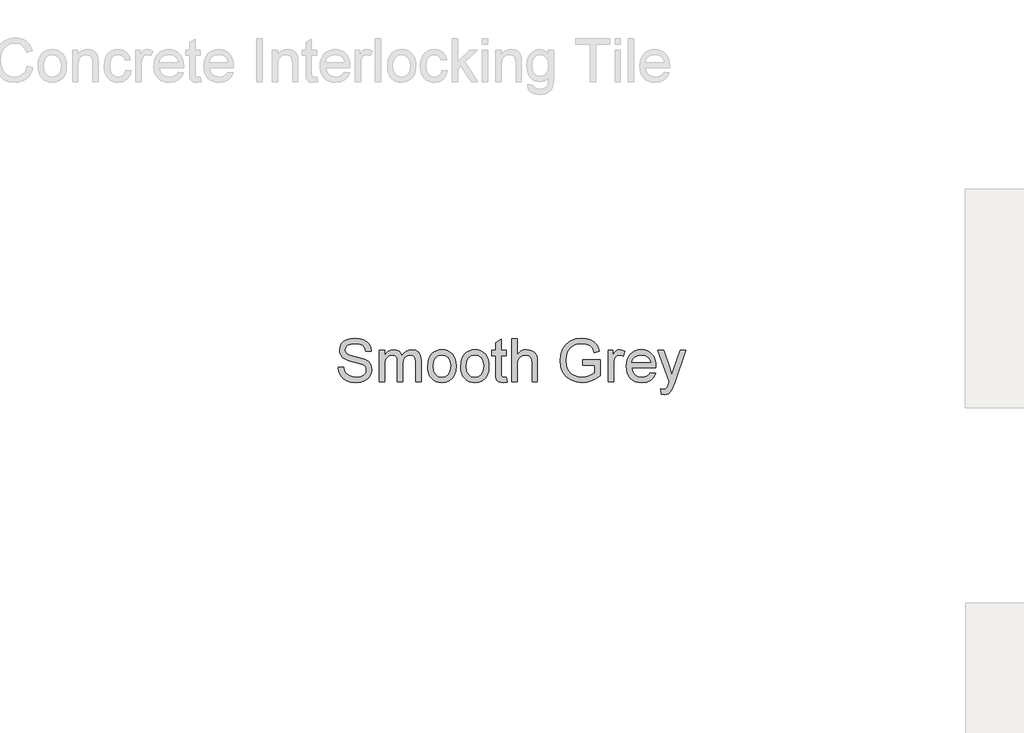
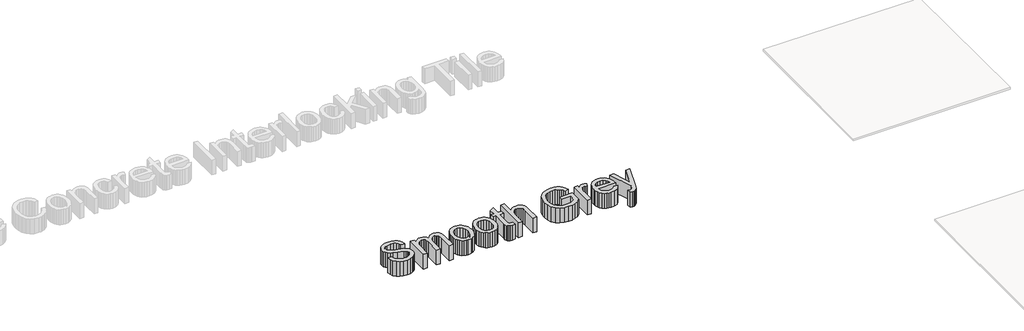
# One storey, part 3 of 4: 1 proxy.
"""IFC4 building model written with IfcOpenShell, lengths in millimetres."""

from ifc_helpers import new_model, si_unit, frame, origin, place, context, project, spatial, polyline, outline, extrude, element, save

model = new_model("IFC4")

# Units and contexts
model_context = context("Model", 3, world=origin())
ifc_project = project(units=[si_unit("LENGTHUNIT", "METRE", prefix="MILLI")], contexts=[model_context])

# Site, building, storey
site = spatial("IfcSite", under=ifc_project)
building = spatial("IfcBuilding", under=site)
storey = spatial("IfcBuildingStorey", under=building, Name="Marley Concrete Interlocking Tiles", Elevation=3000.0)

# Proxy
placement = place(None, origin())
element("IfcBuildingElementProxy", 1, Name="600mm Arial", ObjectType="600mm Arial", at=placement, inside=storey, context=model_context, shape_type="SweptSolid", body=[
    extrude(outline(polyline([(-12933.835925, 1038.4680417), (-12896.9128481, 1038.4680417), (-12892.6760692, 1017.978258), (-12885.0138096, 1001.5089071), (-12873.0606846, 988.4379936), (-12855.9513096, 978.1435224), (-12835.0378481, 971.4638349), (-12811.6724635, 969.2372724), (-12791.10155, 970.9229696), (-12773.0907327, 975.9800609), (-12758.4963817, 983.9848686), (-12748.1748673, 994.5137147), (-12742.0360452, 1006.6020561), (-12739.9897712, 1019.2853494), (-12741.5222231, 1031.6441234), (-12746.1195788, 1042.3262147), (-12755.4585212, 1051.4397965), (-12771.2157327, 1059.0930417), (-12824.9777519, 1073.1915994), (-12860.2692183, 1082.5215272), (-12882.8503481, 1091.400734), (-12901.2307567, 1103.822609), (-12914.2565981, 1118.8766955), (-12922.0180163, 1136.2384744), (-12924.6051558, 1155.5834263), (-12921.4050356, 1177.2090272), (-12911.804675, 1197.3742917), (-12896.0564779, 1214.4656378), (-12874.4128481, 1226.869484), (-12848.4332808, 1234.4145561), (-12819.6772712, 1236.9295801), (-12788.523425, 1234.2973686), (-12761.2638096, 1226.400734), (-12738.8719827, 1213.4019359), (-12722.3215019, 1195.463234), (-12711.8467423, 1173.7024167), (-12707.6820788, 1149.2372724), (-12744.6051558, 1149.2372724), (-12751.3840019, 1171.2685224), (-12765.5186173, 1187.1699647), (-12787.6039538, 1196.7973686), (-12818.2349635, 1200.0065032), (-12849.5871269, 1196.8334263), (-12871.0955404, 1187.3141955), (-12883.5354442, 1173.3057821), (-12887.6820788, 1156.6651571), (-12884.7433769, 1142.4764551), (-12875.9272712, 1131.0641955), (-12855.085925, 1120.8598686), (-12815.6388096, 1110.4391955), (-12750.3022712, 1091.9055417), (-12729.2535933, 1078.510109), (-12714.5690981, 1061.9776571), (-12705.9422952, 1042.4884744), (-12703.0666942, 1020.2228494), (-12706.3749875, 997.4614311), (-12716.2998673, 976.0521763), (-12732.4356846, 957.6266955), (-12754.3767904, 943.8165994), (-12780.7620067, 935.1897965), (-12810.2301558, 932.3141955), (-12846.4050356, 935.4151571), (-12876.179675, 944.7180417), (-12899.8966221, 960.2589071), (-12917.898425, 982.0738109), (-12929.4549154, 1008.6483301), (-12933.835925, 1038.4680417)])), frame((0.0, 0.0, 3000.0), z_axis=(0.0, 0.0, 1.0), x_axis=(1.0, 0.0, 0.0)), (0.0, 0.0, 1.0), 150.0),
    extrude(outline(polyline([(-12652.2974635, 936.9295801), (-12652.2974635, 1153.8526571), (-12615.3743865, 1153.8526571), (-12615.3743865, 1118.1555417), (-12604.2686173, 1134.5527772), (-12589.9897712, 1147.3983301), (-12573.0246269, 1155.7006138), (-12553.8599635, 1158.4680417), (-12533.3251077, 1155.6465272), (-12516.8647712, 1147.181984), (-12504.5690981, 1133.6333061), (-12496.5282327, 1115.5593878), (-12483.069699, 1134.3319239), (-12467.7181365, 1147.7408782), (-12450.4735452, 1155.7862508), (-12431.335925, 1158.4680417), (-12403.5805163, 1154.0059022), (-12383.054675, 1140.619484), (-12370.3713817, 1117.9482099), (-12366.1436173, 1085.6315032), (-12366.1436173, 936.9295801), (-12403.0666942, 936.9295801), (-12403.0666942, 1069.7661186), (-12406.492175, 1100.5954455), (-12411.3058769, 1109.0960465), (-12418.8960212, 1115.775734), (-12428.6586413, 1120.1026571), (-12439.9897712, 1121.5449647), (-12459.992776, 1117.8490513), (-12476.2998673, 1106.7613109), (-12487.1442183, 1087.5245321), (-12490.7590019, 1059.3815032), (-12490.7590019, 936.9295801), (-12527.6820788, 936.9295801), (-12527.6820788, 1073.8766955), (-12529.8184971, 1094.7540994), (-12536.2277519, 1109.6459263), (-12547.5047952, 1118.5702051), (-12564.2445788, 1121.5449647), (-12578.4693385, 1119.5617917), (-12591.5763096, 1113.6122724), (-12602.3936173, 1103.8406378), (-12609.7493865, 1090.3911186), (-12613.9681365, 1071.7312628), (-12615.3743865, 1046.3286186), (-12615.3743865, 936.9295801), (-12652.2974635, 936.9295801)])), frame((0.0, 0.0, 3000.0), z_axis=(0.0, 0.0, 1.0), x_axis=(1.0, 0.0, 0.0)), (0.0, 0.0, 1.0), 150.0),
    extrude(outline(polyline([(-12319.9897712, 1045.3911186), (-12317.9930764, 1073.4845681), (-12312.0029923, 1097.6928013), (-12302.0195188, 1118.0158181), (-12288.0426558, 1134.4536186), (-12273.9711413, 1144.9599287), (-12258.4392904, 1152.4644359), (-12241.4471029, 1156.9671402), (-12222.9945788, 1158.4680417), (-12202.6242363, 1156.6403674), (-12184.2055163, 1151.1573446), (-12167.738419, 1142.0189732), (-12153.2229442, 1129.2252532), (-12141.3757387, 1113.208877), (-12132.913449, 1094.4025369), (-12127.8360752, 1072.8062328), (-12126.1436173, 1048.4199647), (-12129.1364058, 1011.1182821), (-12138.1147712, 982.7228494), (-12152.8172952, 961.4578253), (-12172.9825596, 945.5473686), (-12196.9338817, 935.6224888), (-12222.9945788, 932.3141955), (-12243.6623974, 934.135109), (-12262.2523913, 939.5978494), (-12278.7645608, 948.7024167), (-12293.1989058, 961.4488109), (-12304.9199094, 977.6206859), (-12313.2920548, 997.0016955), (-12318.3153421, 1019.5918397), (-12319.9897712, 1045.3911186)]), holes=[polyline([(-12283.0666942, 1045.463234), (-12278.7938577, 1012.0467676), (-12265.9753481, 988.2396763), (-12246.6844827, 973.9878734), (-12222.9945788, 969.2372724), (-12199.4128481, 974.0149167), (-12180.1580404, 988.3478494), (-12167.3395308, 1012.4704455), (-12163.0666942, 1046.6170801), (-12167.366574, 1079.0599888), (-12180.2662135, 1102.5425609), (-12199.5480644, 1116.7943638), (-12222.9945788, 1121.5449647), (-12246.6844827, 1116.8123926), (-12265.9753481, 1102.6146763), (-12278.7938577, 1078.8616715), (-12283.0666942, 1045.463234)])]), frame((0.0, 0.0, 3000.0), z_axis=(0.0, 0.0, 1.0), x_axis=(1.0, 0.0, 0.0)), (0.0, 0.0, 1.0), 150.0),
    extrude(outline(polyline([(-12093.835925, 1045.3911186), (-12091.8392303, 1073.4845681), (-12085.8491462, 1097.6928013), (-12075.8656726, 1118.0158181), (-12061.8888096, 1134.4536186), (-12047.8172952, 1144.9599287), (-12032.2854442, 1152.4644359), (-12015.2932567, 1156.9671402), (-11996.8407327, 1158.4680417), (-11976.4703901, 1156.6403674), (-11958.0516702, 1151.1573446), (-11941.5845728, 1142.0189732), (-11927.0690981, 1129.2252532), (-11915.2218926, 1113.208877), (-11906.7596029, 1094.4025369), (-11901.6822291, 1072.8062328), (-11899.9897712, 1048.4199647), (-11902.9825596, 1011.1182821), (-11911.960925, 982.7228494), (-11926.663449, 961.4578253), (-11946.8287135, 945.5473686), (-11970.7800356, 935.6224888), (-11996.8407327, 932.3141955), (-12017.5085512, 934.135109), (-12036.0985452, 939.5978494), (-12052.6107147, 948.7024167), (-12067.0450596, 961.4488109), (-12078.7660632, 977.6206859), (-12087.1382087, 997.0016955), (-12092.1614959, 1019.5918397), (-12093.835925, 1045.3911186)]), holes=[polyline([(-12056.9128481, 1045.463234), (-12052.6400115, 1012.0467676), (-12039.8215019, 988.2396763), (-12020.5306365, 973.9878734), (-11996.8407327, 969.2372724), (-11973.2590019, 974.0149167), (-11954.0041942, 988.3478494), (-11941.1856846, 1012.4704455), (-11936.9128481, 1046.6170801), (-11941.2127279, 1079.0599888), (-11954.1123673, 1102.5425609), (-11973.3942183, 1116.7943638), (-11996.8407327, 1121.5449647), (-12020.5306365, 1116.8123926), (-12039.8215019, 1102.6146763), (-12052.6400115, 1078.8616715), (-12056.9128481, 1045.463234)])]), frame((0.0, 0.0, 3000.0), z_axis=(0.0, 0.0, 1.0), x_axis=(1.0, 0.0, 0.0)), (0.0, 0.0, 1.0), 150.0),
    extrude(outline(polyline([(-11779.9897712, 967.7228494), (-11775.3743865, 935.8478494), (-11802.9945788, 932.3141955), (-11820.7169346, 933.8466474), (-11833.9320788, 938.4440032), (-11843.2710212, 945.5293397), (-11849.3647712, 954.525734), (-11852.7181365, 969.9764551), (-11853.835925, 996.4247724), (-11853.835925, 1116.9295801), (-11881.5282327, 1116.9295801), (-11881.5282327, 1153.8526571), (-11853.835925, 1153.8526571), (-11853.835925, 1206.5690032), (-11816.9128481, 1228.275734), (-11816.9128481, 1153.8526571), (-11779.9897712, 1153.8526571), (-11779.9897712, 1116.9295801), (-11816.9128481, 1116.9295801), (-11816.9128481, 997.5065032), (-11814.9657327, 978.4680417), (-11808.6556365, 971.7252532), (-11796.0715019, 969.2372724), (-11779.9897712, 967.7228494)])), frame((0.0, 0.0, 3000.0), z_axis=(0.0, 0.0, 1.0), x_axis=(1.0, 0.0, 0.0)), (0.0, 0.0, 1.0), 150.0),
    extrude(outline(polyline([(-11743.0666942, 936.9295801), (-11743.0666942, 1232.3141955), (-11706.1436173, 1232.3141955), (-11706.1436173, 1123.7084263), (-11692.5814178, 1138.915758), (-11677.35155, 1149.7781378), (-11660.4540139, 1156.2955657), (-11641.8888096, 1158.4680417), (-11619.5871269, 1156.0972484), (-11600.4224635, 1148.9848686), (-11585.3323192, 1137.6897965), (-11575.2541942, 1122.7709263), (-11569.5751077, 1102.2721282), (-11567.6820788, 1074.2372724), (-11567.6820788, 936.9295801), (-11604.6051558, 936.9295801), (-11604.6051558, 1070.4151571), (-11607.5438577, 1093.5281378), (-11616.3599635, 1109.3574647), (-11630.5666942, 1118.4980897), (-11649.6772712, 1121.5449647), (-11665.2812375, 1119.4896763), (-11679.929675, 1113.3238109), (-11692.0630885, 1103.6423205), (-11700.1219827, 1091.0401571), (-11704.6382087, 1074.291359), (-11706.1436173, 1052.1699647), (-11706.1436173, 936.9295801), (-11743.0666942, 936.9295801)])), frame((0.0, 0.0, 3000.0), z_axis=(0.0, 0.0, 1.0), x_axis=(1.0, 0.0, 0.0)), (0.0, 0.0, 1.0), 150.0),
    extrude(outline(polyline([(-11258.4513096, 1052.3141955), (-11258.4513096, 1089.2372724), (-11138.4513096, 1089.2372724), (-11138.4513096, 978.8286186), (-11167.6129683, 958.5461667), (-11197.6940981, 943.9968878), (-11228.6225837, 935.2348686), (-11260.3263096, 932.3141955), (-11301.7475837, 936.9566234), (-11339.1844827, 950.8839071), (-11370.2842423, 973.6092676), (-11392.6940981, 1004.6459263), (-11406.242776, 1041.8754936), (-11410.7590019, 1083.1795801), (-11406.2608048, 1124.7811426), (-11392.7662135, 1163.4800609), (-11370.8341221, 1195.9409984), (-11341.023425, 1218.8286186), (-11304.7133288, 1232.4043397), (-11263.2830404, 1236.9295801), (-11232.8683769, 1234.306383), (-11205.5186173, 1226.4367917), (-11182.4867663, 1213.8887147), (-11165.0258288, 1197.2300609), (-11152.1081606, 1175.6585465), (-11142.7061173, 1148.3718878), (-11176.7445788, 1138.7805417), (-11184.3437375, 1158.2426811), (-11193.5835212, 1172.9271763), (-11205.8070788, 1183.9968878), (-11222.3575596, 1192.6146763), (-11242.0901317, 1198.1585465), (-11263.8599635, 1200.0065032), (-11289.3437375, 1198.0143157), (-11311.1315981, 1192.0377532), (-11329.1424154, 1182.8250128), (-11343.2950596, 1171.1242917), (-11362.2974635, 1142.6747724), (-11370.9513096, 1114.8021763), (-11373.835925, 1084.6940032), (-11370.3653721, 1049.384508), (-11359.9537135, 1020.3310224), (-11342.9164538, 997.7408782), (-11319.5690981, 981.8214071), (-11292.2463817, 972.3833061), (-11263.2830404, 969.2372724), (-11237.7091221, 971.6080657), (-11212.7662135, 978.7204455), (-11191.1045548, 988.5191234), (-11175.3743865, 998.9488109), (-11175.3743865, 1052.3141955), (-11258.4513096, 1052.3141955)])), frame((0.0, 0.0, 3000.0), z_axis=(0.0, 0.0, 1.0), x_axis=(1.0, 0.0, 0.0)), (0.0, 0.0, 1.0), 150.0),
    extrude(outline(polyline([(-11083.0666942, 936.9295801), (-11083.0666942, 1153.8526571), (-11050.7590019, 1153.8526571), (-11050.7590019, 1121.7613109), (-11038.8239058, 1140.3670801), (-11027.8263096, 1151.3286186), (-11016.7926558, 1156.6831859), (-11004.7493865, 1158.4680417), (-10986.3599635, 1155.619484), (-10967.6820788, 1147.0738109), (-10980.0138096, 1113.9728494), (-10992.9945788, 1119.6519359), (-11005.9753481, 1121.5449647), (-11016.9999875, 1119.7240513), (-11026.8527519, 1114.2613109), (-11034.8124875, 1105.5714071), (-11040.1580404, 1094.0690032), (-11044.6472231, 1073.4440032), (-11046.1436173, 1050.9440032), (-11046.1436173, 936.9295801), (-11083.0666942, 936.9295801)])), frame((0.0, 0.0, 3000.0), z_axis=(0.0, 0.0, 1.0), x_axis=(1.0, 0.0, 0.0)), (0.0, 0.0, 1.0), 150.0),
    extrude(outline(polyline([(-10792.7301558, 1001.5449647), (-10756.5282327, 996.9295801), (-10769.5721029, 969.6519359), (-10790.3864058, 949.2613109), (-10818.5023913, 936.5509744), (-10853.4513096, 932.3141955), (-10876.3614659, 934.1418698), (-10896.7746269, 939.6248926), (-10914.6907928, 948.763264), (-10930.1099635, 961.556984), (-10942.5093024, 977.6499828), (-10951.3659731, 996.6861907), (-10956.6799755, 1018.6656078), (-10958.4513096, 1043.588234), (-10956.6619466, 1069.3559623), (-10951.2938577, 1092.0678013), (-10942.3470428, 1111.7237508), (-10929.8215019, 1128.3238109), (-10914.4428962, 1141.5119119), (-10896.9368865, 1150.931984), (-10877.3034731, 1156.5840272), (-10855.5426558, 1158.4680417), (-10834.4827099, 1156.5885345), (-10815.4374875, 1150.9500128), (-10798.4069887, 1141.5524768), (-10783.3912135, 1128.3959263), (-10771.1338517, 1111.8319239), (-10762.3785933, 1092.2120321), (-10757.1254382, 1069.5362508), (-10755.3743865, 1043.8045801), (-10755.5907327, 1033.8526571), (-10921.5282327, 1033.8526571), (-10915.1370067, 1006.2144359), (-10900.2902519, 985.8959263), (-10878.8629683, 973.4019359), (-10852.7301558, 969.2372724), (-10833.0787135, 971.166359), (-10816.5282327, 976.9536186), (-10803.0787135, 986.9596282), (-10792.7301558, 1001.5449647)]), holes=[polyline([(-10921.5282327, 1070.775734), (-10792.2974635, 1070.775734), (-10797.2914538, 1090.2829455), (-10807.0811173, 1104.2372724), (-10828.6075596, 1117.2180417), (-10855.6868865, 1121.5449647), (-10880.5757087, 1118.0924407), (-10901.1556365, 1107.7348686), (-10915.461526, 1091.5900369), (-10921.5282327, 1070.775734)])]), frame((0.0, 0.0, 3000.0), z_axis=(0.0, 0.0, 1.0), x_axis=(1.0, 0.0, 0.0)), (0.0, 0.0, 1.0), 150.0),
    extrude(outline(polyline([(-10718.4513096, 853.8526571), (-10723.0666942, 889.4055417), (-10704.3166942, 886.1603494), (-10686.7926558, 890.2348686), (-10676.0474635, 901.5930417), (-10665.9513096, 928.7805417), (-10663.0666942, 937.7228494), (-10741.5282327, 1153.8526571), (-10702.585925, 1153.8526571), (-10660.9753481, 1033.4199647), (-10646.4801558, 985.2468878), (-10631.9849635, 1027.7949647), (-10589.2205404, 1153.8526571), (-10550.5666942, 1153.8526571), (-10626.0715019, 931.7372724), (-10645.6868865, 883.5641955), (-10655.7289538, 868.1855897), (-10667.1051558, 857.5305417), (-10680.3203, 851.3105897), (-10695.8791942, 849.2372724), (-10718.4513096, 853.8526571)])), frame((0.0, 0.0, 3000.0), z_axis=(0.0, 0.0, 1.0), x_axis=(1.0, 0.0, 0.0)), (0.0, 0.0, 1.0), 150.0),
])

save(model, "model.ifc")
